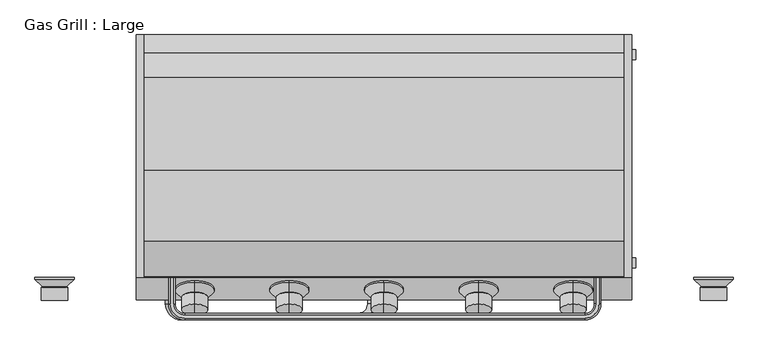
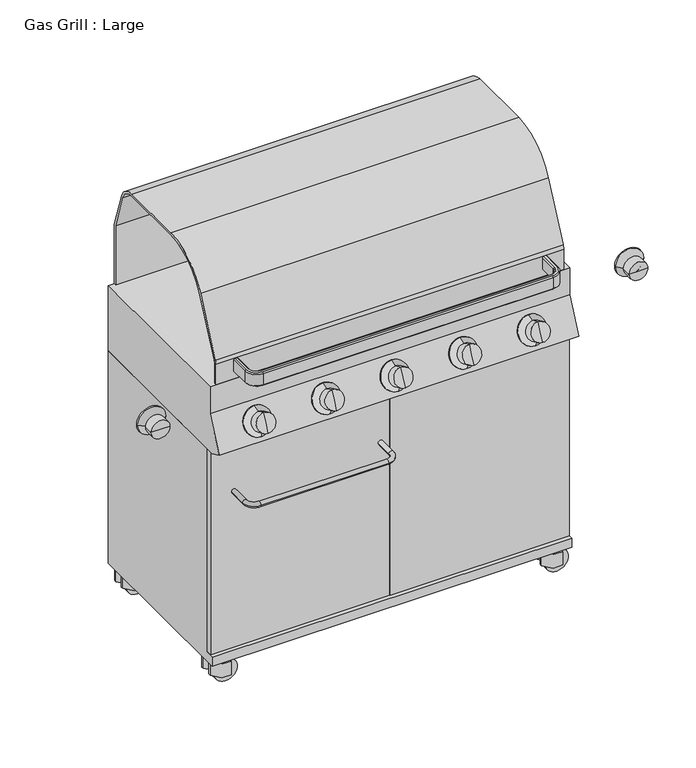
"""IFC4 building model written with IfcOpenShell, lengths in millimetres: proxy geometry, Gas Grill : Large."""

from ifc_helpers import new_model, si_unit, point, frame, frame_2d, origin, place, context, project, spatial, polyline, circle_curve, ellipse_curve, trimmed, segment, composite_curve, outline, extrude, source, transform, mapped, element, save
from ifc_brep_helpers import plane_surface, cylinder_surface, revolved_surface, advanced_brep


def gas_grill_large_af3ab6b7(model_context):
    return source(origin(), model_context, "Body", "SolidModel", [
        advanced_brep(
        [(-184.15, -237.6710003, 774.7559865), (-184.15, -269.8745119, 705.6953331), (-184.15, -253.7727561, 740.2256598), (-184.15, -240.5485275, 776.0977995), (-184.15, -272.7520391, 707.0371461), (-184.15, -259.5355585, 769.1870854), (-184.15, -279.6627532, 726.024177), (-184.15, -260.3034156, 771.2967555), (-184.15, -281.7724233, 725.2563199), (-184.15, -283.3236334, 782.0312593), (-184.15, -304.7926411, 735.9908238), (-184.15, -294.0581372, 759.0110415)],
        [
            (0, 1, circle_curve(frame((-184.15, -253.7727561, 740.2256598), z_axis=(0.0, 0.9063077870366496, -0.42261826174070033), x_axis=(0.0, -0.42261826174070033, -0.9063077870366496)), 38.1)),
            (1, 2),
            (2, 0),
            (1, 0, circle_curve(frame((-184.15, -253.7727561, 740.2256598), z_axis=(0.0, 0.9063077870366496, -0.42261826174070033), x_axis=(0.0, -0.42261826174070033, -0.9063077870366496)), 38.1)),
            (3, 4, circle_curve(frame((-184.15, -256.6502833, 741.5674728), z_axis=(0.0, 0.9063077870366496, -0.42261826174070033), x_axis=(0.0, -0.42261826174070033, -0.9063077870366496)), 38.1)),
            (4, 1),
            (0, 3),
            (4, 3, circle_curve(frame((-184.15, -256.6502833, 741.5674728), z_axis=(0.0, 0.9063077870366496, -0.42261826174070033), x_axis=(0.0, -0.42261826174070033, -0.9063077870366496)), 38.1)),
            (5, 6, circle_curve(frame((-184.15, -269.5991558, 747.6056312), z_axis=(0.0, 0.9063077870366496, -0.42261826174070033), x_axis=(0.0, -0.42261826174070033, -0.9063077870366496)), 23.8125)),
            (6, 4),
            (3, 5),
            (6, 5, circle_curve(frame((-184.15, -269.5991558, 747.6056312), z_axis=(0.0, 0.9063077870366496, -0.42261826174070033), x_axis=(0.0, -0.42261826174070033, -0.9063077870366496)), 23.8125)),
            (7, 8, circle_curve(frame((-184.15, -271.0379194, 748.2765377), z_axis=(0.0, 0.9063077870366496, -0.42261826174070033), x_axis=(0.0, -0.42261826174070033, -0.9063077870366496)), 25.4)),
            (8, 6),
            (5, 7),
            (8, 7, circle_curve(frame((-184.15, -271.0379194, 748.2765377), z_axis=(0.0, 0.9063077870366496, -0.42261826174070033), x_axis=(0.0, -0.42261826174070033, -0.9063077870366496)), 25.4)),
            (9, 10, circle_curve(frame((-184.15, -294.0581372, 759.0110415), z_axis=(0.0, 0.9063077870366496, -0.42261826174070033), x_axis=(0.0, -0.42261826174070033, -0.9063077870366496)), 25.4)),
            (10, 8),
            (7, 9),
            (10, 9, circle_curve(frame((-184.15, -294.0581372, 759.0110415), z_axis=(0.0, 0.9063077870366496, -0.42261826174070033), x_axis=(0.0, -0.42261826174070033, -0.9063077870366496)), 25.4)),
            (11, 10),
            (9, 11),
        ],
        [
            plane_surface(frame((-184.15, -253.7727561, 740.2256598), z_axis=(0.0, 0.9063077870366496, -0.42261826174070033), x_axis=(0.0, -0.42261826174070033, -0.9063077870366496))),
            cylinder_surface(frame((-184.15, -294.0581372, 759.0110415), z_axis=(0.0, -0.9063077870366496, 0.42261826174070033), x_axis=(0.0, -0.42261826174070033, -0.9063077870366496)), 38.1),
            revolved_surface(polyline([(-184.15, -272.7520391, 707.0371461), (-184.15, -279.6627532, 726.024177)]), (-184.15, -294.0581372, 759.0110415), (0.0, -0.9063077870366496, 0.42261826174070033)),
            revolved_surface(polyline([(-184.15, -279.6627532, 726.024177), (-184.15, -281.7724233, 725.2563199)]), (-184.15, -294.0581372, 759.0110415), (0.0, -0.9063077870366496, 0.42261826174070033)),
            cylinder_surface(frame((-184.15, -294.0581372, 759.0110415), z_axis=(0.0, -0.9063077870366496, 0.42261826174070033), x_axis=(0.0, -0.42261826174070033, -0.9063077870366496)), 25.4),
            plane_surface(frame((-184.15, -294.0581372, 759.0110415), z_axis=(0.0, -0.9063077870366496, 0.42261826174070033), x_axis=(0.0, -0.42261826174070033, -0.9063077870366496))),
        ],
        [
            (0, [[1, 2, 3]]),
            (0, [[4, -3, -2]]),
            (1, [[5, 6, -1, 7]]),
            (1, [[8, -7, -4, -6]]),
            (2, [[9, 10, -5, 11]]),
            (2, [[12, -11, -8, -10]]),
            (3, [[13, 14, -9, 15]]),
            (3, [[16, -15, -12, -14]]),
            (4, [[17, 18, -13, 19]]),
            (4, [[20, -19, -16, -18]]),
            (5, [[21, -17, 22]]),
            (5, [[-22, -20, -21]]),
        ],
    ),
        advanced_brep(
        [(0.0, -237.6710003, 774.7559865), (0.0, -269.8745119, 705.6953331), (0.0, -253.7727561, 740.2256598), (0.0, -240.5485275, 776.0977995), (0.0, -272.7520391, 707.0371461), (0.0, -259.5355585, 769.1870854), (0.0, -279.6627532, 726.024177), (0.0, -260.3034156, 771.2967555), (0.0, -281.7724233, 725.2563199), (0.0, -283.3236334, 782.0312593), (0.0, -304.7926411, 735.9908238), (0.0, -294.0581372, 759.0110415)],
        [
            (0, 1, circle_curve(frame((0.0, -253.7727561, 740.2256598), z_axis=(0.0, 0.9063077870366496, -0.42261826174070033), x_axis=(0.0, -0.42261826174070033, -0.9063077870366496)), 38.1)),
            (1, 2),
            (2, 0),
            (1, 0, circle_curve(frame((0.0, -253.7727561, 740.2256598), z_axis=(0.0, 0.9063077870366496, -0.42261826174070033), x_axis=(0.0, -0.42261826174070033, -0.9063077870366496)), 38.1)),
            (3, 4, circle_curve(frame((0.0, -256.6502833, 741.5674728), z_axis=(0.0, 0.9063077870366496, -0.42261826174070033), x_axis=(0.0, -0.42261826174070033, -0.9063077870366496)), 38.1)),
            (4, 1),
            (0, 3),
            (4, 3, circle_curve(frame((0.0, -256.6502833, 741.5674728), z_axis=(0.0, 0.9063077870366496, -0.42261826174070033), x_axis=(0.0, -0.42261826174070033, -0.9063077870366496)), 38.1)),
            (5, 6, circle_curve(frame((0.0, -269.5991558, 747.6056312), z_axis=(0.0, 0.9063077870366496, -0.42261826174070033), x_axis=(0.0, -0.42261826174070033, -0.9063077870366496)), 23.8125)),
            (6, 4),
            (3, 5),
            (6, 5, circle_curve(frame((0.0, -269.5991558, 747.6056312), z_axis=(0.0, 0.9063077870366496, -0.42261826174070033), x_axis=(0.0, -0.42261826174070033, -0.9063077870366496)), 23.8125)),
            (7, 8, circle_curve(frame((0.0, -271.0379194, 748.2765377), z_axis=(0.0, 0.9063077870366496, -0.42261826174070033), x_axis=(0.0, -0.42261826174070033, -0.9063077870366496)), 25.4)),
            (8, 6),
            (5, 7),
            (8, 7, circle_curve(frame((0.0, -271.0379194, 748.2765377), z_axis=(0.0, 0.9063077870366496, -0.42261826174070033), x_axis=(0.0, -0.42261826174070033, -0.9063077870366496)), 25.4)),
            (9, 10, circle_curve(frame((0.0, -294.0581372, 759.0110415), z_axis=(0.0, 0.9063077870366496, -0.42261826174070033), x_axis=(0.0, -0.42261826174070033, -0.9063077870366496)), 25.4)),
            (10, 8),
            (7, 9),
            (10, 9, circle_curve(frame((0.0, -294.0581372, 759.0110415), z_axis=(0.0, 0.9063077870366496, -0.42261826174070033), x_axis=(0.0, -0.42261826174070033, -0.9063077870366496)), 25.4)),
            (11, 10),
            (9, 11),
        ],
        [
            plane_surface(frame((0.0, -253.7727561, 740.2256598), z_axis=(0.0, 0.9063077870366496, -0.42261826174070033), x_axis=(0.0, -0.42261826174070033, -0.9063077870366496))),
            cylinder_surface(frame((0.0, -294.0581372, 759.0110415), z_axis=(0.0, -0.9063077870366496, 0.42261826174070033), x_axis=(0.0, -0.42261826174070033, -0.9063077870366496)), 38.1),
            revolved_surface(polyline([(0.0, -272.7520391, 707.0371461), (0.0, -279.6627532, 726.024177)]), (0.0, -294.0581372, 759.0110415), (0.0, -0.9063077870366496, 0.42261826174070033)),
            revolved_surface(polyline([(0.0, -279.6627532, 726.024177), (0.0, -281.7724233, 725.2563199)]), (0.0, -294.0581372, 759.0110415), (0.0, -0.9063077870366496, 0.42261826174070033)),
            cylinder_surface(frame((0.0, -294.0581372, 759.0110415), z_axis=(0.0, -0.9063077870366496, 0.42261826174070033), x_axis=(0.0, -0.42261826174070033, -0.9063077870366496)), 25.4),
            plane_surface(frame((0.0, -294.0581372, 759.0110415), z_axis=(0.0, -0.9063077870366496, 0.42261826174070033), x_axis=(0.0, -0.42261826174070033, -0.9063077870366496))),
        ],
        [
            (0, [[1, 2, 3]]),
            (0, [[4, -3, -2]]),
            (1, [[5, 6, -1, 7]]),
            (1, [[8, -7, -4, -6]]),
            (2, [[9, 10, -5, 11]]),
            (2, [[12, -11, -8, -10]]),
            (3, [[13, 14, -9, 15]]),
            (3, [[16, -15, -12, -14]]),
            (4, [[17, 18, -13, 19]]),
            (4, [[20, -19, -16, -18]]),
            (5, [[21, -17, 22]]),
            (5, [[-22, -20, -21]]),
        ],
    ),
        advanced_brep(
        [(184.15, -237.6710003, 774.7559865), (184.15, -269.8745119, 705.6953331), (184.15, -253.7727561, 740.2256598), (184.15, -240.5485275, 776.0977995), (184.15, -272.7520391, 707.0371461), (184.15, -259.5355585, 769.1870854), (184.15, -279.6627532, 726.024177), (184.15, -260.3034156, 771.2967555), (184.15, -281.7724233, 725.2563199), (184.15, -283.3236334, 782.0312593), (184.15, -304.7926411, 735.9908238), (184.15, -294.0581372, 759.0110415)],
        [
            (0, 1, circle_curve(frame((184.15, -253.7727561, 740.2256598), z_axis=(0.0, 0.9063077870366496, -0.42261826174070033), x_axis=(0.0, -0.42261826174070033, -0.9063077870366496)), 38.1)),
            (1, 2),
            (2, 0),
            (1, 0, circle_curve(frame((184.15, -253.7727561, 740.2256598), z_axis=(0.0, 0.9063077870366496, -0.42261826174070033), x_axis=(0.0, -0.42261826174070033, -0.9063077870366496)), 38.1)),
            (3, 4, circle_curve(frame((184.15, -256.6502833, 741.5674728), z_axis=(0.0, 0.9063077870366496, -0.42261826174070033), x_axis=(0.0, -0.42261826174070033, -0.9063077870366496)), 38.1)),
            (4, 1),
            (0, 3),
            (4, 3, circle_curve(frame((184.15, -256.6502833, 741.5674728), z_axis=(0.0, 0.9063077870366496, -0.42261826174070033), x_axis=(0.0, -0.42261826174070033, -0.9063077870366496)), 38.1)),
            (5, 6, circle_curve(frame((184.15, -269.5991558, 747.6056312), z_axis=(0.0, 0.9063077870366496, -0.42261826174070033), x_axis=(0.0, -0.42261826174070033, -0.9063077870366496)), 23.8125)),
            (6, 4),
            (3, 5),
            (6, 5, circle_curve(frame((184.15, -269.5991558, 747.6056312), z_axis=(0.0, 0.9063077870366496, -0.42261826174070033), x_axis=(0.0, -0.42261826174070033, -0.9063077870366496)), 23.8125)),
            (7, 8, circle_curve(frame((184.15, -271.0379194, 748.2765377), z_axis=(0.0, 0.9063077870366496, -0.42261826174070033), x_axis=(0.0, -0.42261826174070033, -0.9063077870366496)), 25.4)),
            (8, 6),
            (5, 7),
            (8, 7, circle_curve(frame((184.15, -271.0379194, 748.2765377), z_axis=(0.0, 0.9063077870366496, -0.42261826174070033), x_axis=(0.0, -0.42261826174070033, -0.9063077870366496)), 25.4)),
            (9, 10, circle_curve(frame((184.15, -294.0581372, 759.0110415), z_axis=(0.0, 0.9063077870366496, -0.42261826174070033), x_axis=(0.0, -0.42261826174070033, -0.9063077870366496)), 25.4)),
            (10, 8),
            (7, 9),
            (10, 9, circle_curve(frame((184.15, -294.0581372, 759.0110415), z_axis=(0.0, 0.9063077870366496, -0.42261826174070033), x_axis=(0.0, -0.42261826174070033, -0.9063077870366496)), 25.4)),
            (11, 10),
            (9, 11),
        ],
        [
            plane_surface(frame((184.15, -253.7727561, 740.2256598), z_axis=(0.0, 0.9063077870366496, -0.42261826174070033), x_axis=(0.0, -0.42261826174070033, -0.9063077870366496))),
            cylinder_surface(frame((184.15, -294.0581372, 759.0110415), z_axis=(0.0, -0.9063077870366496, 0.42261826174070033), x_axis=(0.0, -0.42261826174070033, -0.9063077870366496)), 38.1),
            revolved_surface(polyline([(184.15, -272.7520391, 707.0371461), (184.15, -279.6627532, 726.024177)]), (184.15, -294.0581372, 759.0110415), (0.0, -0.9063077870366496, 0.42261826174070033)),
            revolved_surface(polyline([(184.15, -279.6627532, 726.024177), (184.15, -281.7724233, 725.2563199)]), (184.15, -294.0581372, 759.0110415), (0.0, -0.9063077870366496, 0.42261826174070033)),
            cylinder_surface(frame((184.15, -294.0581372, 759.0110415), z_axis=(0.0, -0.9063077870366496, 0.42261826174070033), x_axis=(0.0, -0.42261826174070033, -0.9063077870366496)), 25.4),
            plane_surface(frame((184.15, -294.0581372, 759.0110415), z_axis=(0.0, -0.9063077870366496, 0.42261826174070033), x_axis=(0.0, -0.42261826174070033, -0.9063077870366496))),
        ],
        [
            (0, [[1, 2, 3]]),
            (0, [[4, -3, -2]]),
            (1, [[5, 6, -1, 7]]),
            (1, [[8, -7, -4, -6]]),
            (2, [[9, 10, -5, 11]]),
            (2, [[12, -11, -8, -10]]),
            (3, [[13, 14, -9, 15]]),
            (3, [[16, -15, -12, -14]]),
            (4, [[17, 18, -13, 19]]),
            (4, [[20, -19, -16, -18]]),
            (5, [[21, -17, 22]]),
            (5, [[-22, -20, -21]]),
        ],
    ),
        advanced_brep(
        [(-603.25, -231.775, 825.5), (-641.35, -231.775, 825.5), (-679.45, -231.775, 825.5), (-603.25, -234.95, 825.5), (-679.45, -234.95, 825.5), (-617.5375, -249.2375, 825.5), (-665.1625, -249.2375, 825.5), (-615.95, -250.825, 825.5), (-666.75, -250.825, 825.5), (-615.95, -276.225, 825.5), (-666.75, -276.225, 825.5), (-641.35, -276.225, 825.5)],
        [
            (0, 1),
            (1, 2),
            (2, 0, circle_curve(frame((-641.35, -231.775, 825.5), z_axis=(0.0, 1.0, 0.0), x_axis=(-1.0, 0.0, 0.0)), 38.1)),
            (0, 2, circle_curve(frame((-641.35, -231.775, 825.5), z_axis=(0.0, 1.0, 0.0), x_axis=(-1.0, 0.0, 0.0)), 38.1)),
            (3, 0),
            (2, 4),
            (4, 3, circle_curve(frame((-641.35, -234.95, 825.5), z_axis=(0.0, 1.0, 0.0), x_axis=(-1.0, 0.0, 0.0)), 38.1)),
            (3, 4, circle_curve(frame((-641.35, -234.95, 825.5), z_axis=(0.0, 1.0, 0.0), x_axis=(-1.0, 0.0, 0.0)), 38.1)),
            (5, 3),
            (4, 6),
            (6, 5, circle_curve(frame((-641.35, -249.2375, 825.5), z_axis=(0.0, 1.0, 0.0), x_axis=(-1.0, 0.0, 0.0)), 23.8125)),
            (5, 6, circle_curve(frame((-641.35, -249.2375, 825.5), z_axis=(0.0, 1.0, 0.0), x_axis=(-1.0, 0.0, 0.0)), 23.8125)),
            (7, 5),
            (6, 8),
            (8, 7, circle_curve(frame((-641.35, -250.825, 825.5), z_axis=(0.0, 1.0, 0.0), x_axis=(-1.0, 0.0, 0.0)), 25.4)),
            (7, 8, circle_curve(frame((-641.35, -250.825, 825.5), z_axis=(0.0, 1.0, 0.0), x_axis=(-1.0, 0.0, 0.0)), 25.4)),
            (9, 7),
            (8, 10),
            (10, 9, circle_curve(frame((-641.35, -276.225, 825.5), z_axis=(0.0, 1.0, 0.0), x_axis=(-1.0, 0.0, 0.0)), 25.4)),
            (9, 10, circle_curve(frame((-641.35, -276.225, 825.5), z_axis=(0.0, 1.0, 0.0), x_axis=(-1.0, 0.0, 0.0)), 25.4)),
            (11, 9),
            (10, 11),
        ],
        [
            plane_surface(frame((-641.35, -231.775, 825.5), z_axis=(0.0, 1.0, 0.0), x_axis=(-1.0, 0.0, 0.0))),
            cylinder_surface(frame((-641.35, -276.225, 825.5), z_axis=(0.0, -1.0, 0.0), x_axis=(-1.0, 0.0, 0.0)), 38.1),
            revolved_surface(polyline([(-679.45, -234.95, 825.5), (-665.1625, -249.2375, 825.5)]), (-641.35, -276.225, 825.5), (0.0, -1.0, 0.0)),
            revolved_surface(polyline([(-665.1625, -249.2375, 825.5), (-666.75, -250.825, 825.5)]), (-641.35, -276.225, 825.5), (0.0, -1.0, 0.0)),
            cylinder_surface(frame((-641.35, -276.225, 825.5), z_axis=(0.0, -1.0, 0.0), x_axis=(-1.0, 0.0, 0.0)), 25.4),
            plane_surface(frame((-641.35, -276.225, 825.5), z_axis=(0.0, -1.0, 0.0), x_axis=(-1.0, 0.0, 0.0))),
        ],
        [
            (0, [[1, 2, 3]]),
            (0, [[-2, -1, 4]]),
            (1, [[5, -3, 6, 7]]),
            (1, [[-6, -4, -5, 8]]),
            (2, [[9, -7, 10, 11]]),
            (2, [[-10, -8, -9, 12]]),
            (3, [[13, -11, 14, 15]]),
            (3, [[-14, -12, -13, 16]]),
            (4, [[17, -15, 18, 19]]),
            (4, [[-18, -16, -17, 20]]),
            (5, [[21, -19, 22]]),
            (5, [[-22, -20, -21]]),
        ],
    ),
        advanced_brep(
        [(-368.3, -237.6710003, 774.7559865), (-368.3, -269.8745119, 705.6953331), (-368.3, -253.7727561, 740.2256598), (-368.3, -240.5485275, 776.0977995), (-368.3, -272.7520391, 707.0371461), (-368.3, -259.5355585, 769.1870854), (-368.3, -279.6627532, 726.024177), (-368.3, -260.3034156, 771.2967555), (-368.3, -281.7724233, 725.2563199), (-368.3, -283.3236334, 782.0312593), (-368.3, -304.7926411, 735.9908238), (-368.3, -294.0581372, 759.0110415)],
        [
            (0, 1, circle_curve(frame((-368.3, -253.7727561, 740.2256598), z_axis=(0.0, 0.9063077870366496, -0.42261826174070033), x_axis=(0.0, -0.42261826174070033, -0.9063077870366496)), 38.1)),
            (1, 2),
            (2, 0),
            (1, 0, circle_curve(frame((-368.3, -253.7727561, 740.2256598), z_axis=(0.0, 0.9063077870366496, -0.42261826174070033), x_axis=(0.0, -0.42261826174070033, -0.9063077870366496)), 38.1)),
            (3, 4, circle_curve(frame((-368.3, -256.6502833, 741.5674728), z_axis=(0.0, 0.9063077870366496, -0.42261826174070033), x_axis=(0.0, -0.42261826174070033, -0.9063077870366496)), 38.1)),
            (4, 1),
            (0, 3),
            (4, 3, circle_curve(frame((-368.3, -256.6502833, 741.5674728), z_axis=(0.0, 0.9063077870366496, -0.42261826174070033), x_axis=(0.0, -0.42261826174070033, -0.9063077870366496)), 38.1)),
            (5, 6, circle_curve(frame((-368.3, -269.5991558, 747.6056312), z_axis=(0.0, 0.9063077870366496, -0.42261826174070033), x_axis=(0.0, -0.42261826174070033, -0.9063077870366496)), 23.8125)),
            (6, 4),
            (3, 5),
            (6, 5, circle_curve(frame((-368.3, -269.5991558, 747.6056312), z_axis=(0.0, 0.9063077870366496, -0.42261826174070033), x_axis=(0.0, -0.42261826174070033, -0.9063077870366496)), 23.8125)),
            (7, 8, circle_curve(frame((-368.3, -271.0379194, 748.2765377), z_axis=(0.0, 0.9063077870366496, -0.42261826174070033), x_axis=(0.0, -0.42261826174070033, -0.9063077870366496)), 25.4)),
            (8, 6),
            (5, 7),
            (8, 7, circle_curve(frame((-368.3, -271.0379194, 748.2765377), z_axis=(0.0, 0.9063077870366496, -0.42261826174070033), x_axis=(0.0, -0.42261826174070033, -0.9063077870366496)), 25.4)),
            (9, 10, circle_curve(frame((-368.3, -294.0581372, 759.0110415), z_axis=(0.0, 0.9063077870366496, -0.42261826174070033), x_axis=(0.0, -0.42261826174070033, -0.9063077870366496)), 25.4)),
            (10, 8),
            (7, 9),
            (10, 9, circle_curve(frame((-368.3, -294.0581372, 759.0110415), z_axis=(0.0, 0.9063077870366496, -0.42261826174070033), x_axis=(0.0, -0.42261826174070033, -0.9063077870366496)), 25.4)),
            (11, 10),
            (9, 11),
        ],
        [
            plane_surface(frame((-368.3, -253.7727561, 740.2256598), z_axis=(0.0, 0.9063077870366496, -0.42261826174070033), x_axis=(0.0, -0.42261826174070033, -0.9063077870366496))),
            cylinder_surface(frame((-368.3, -294.0581372, 759.0110415), z_axis=(0.0, -0.9063077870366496, 0.42261826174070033), x_axis=(0.0, -0.42261826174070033, -0.9063077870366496)), 38.1),
            revolved_surface(polyline([(-368.3, -272.7520391, 707.0371461), (-368.3, -279.6627532, 726.024177)]), (-368.3, -294.0581372, 759.0110415), (0.0, -0.9063077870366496, 0.42261826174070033)),
            revolved_surface(polyline([(-368.3, -279.6627532, 726.024177), (-368.3, -281.7724233, 725.2563199)]), (-368.3, -294.0581372, 759.0110415), (0.0, -0.9063077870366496, 0.42261826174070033)),
            cylinder_surface(frame((-368.3, -294.0581372, 759.0110415), z_axis=(0.0, -0.9063077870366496, 0.42261826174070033), x_axis=(0.0, -0.42261826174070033, -0.9063077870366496)), 25.4),
            plane_surface(frame((-368.3, -294.0581372, 759.0110415), z_axis=(0.0, -0.9063077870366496, 0.42261826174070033), x_axis=(0.0, -0.42261826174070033, -0.9063077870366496))),
        ],
        [
            (0, [[1, 2, 3]]),
            (0, [[4, -3, -2]]),
            (1, [[5, 6, -1, 7]]),
            (1, [[8, -7, -4, -6]]),
            (2, [[9, 10, -5, 11]]),
            (2, [[12, -11, -8, -10]]),
            (3, [[13, 14, -9, 15]]),
            (3, [[16, -15, -12, -14]]),
            (4, [[17, 18, -13, 19]]),
            (4, [[20, -19, -16, -18]]),
            (5, [[21, -17, 22]]),
            (5, [[-22, -20, -21]]),
        ],
    ),
        advanced_brep(
        [(603.25, -231.775, 825.5), (679.45, -231.775, 825.5), (641.35, -231.775, 825.5), (603.25, -234.95, 825.5), (679.45, -234.95, 825.5), (617.5375, -249.2375, 825.5), (665.1625, -249.2375, 825.5), (615.95, -250.825, 825.5), (666.75, -250.825, 825.5), (615.95, -276.225, 825.5), (666.75, -276.225, 825.5), (641.35, -276.225, 825.5)],
        [
            (0, 1, circle_curve(frame((641.35, -231.775, 825.5), z_axis=(0.0, 1.0, 0.0), x_axis=(1.0, 0.0, 0.0)), 38.1)),
            (1, 2),
            (2, 0),
            (1, 0, circle_curve(frame((641.35, -231.775, 825.5), z_axis=(0.0, 1.0, 0.0), x_axis=(1.0, 0.0, 0.0)), 38.1)),
            (3, 4, circle_curve(frame((641.35, -234.95, 825.5), z_axis=(0.0, 1.0, 0.0), x_axis=(1.0, 0.0, 0.0)), 38.1)),
            (4, 1),
            (0, 3),
            (4, 3, circle_curve(frame((641.35, -234.95, 825.5), z_axis=(0.0, 1.0, 0.0), x_axis=(1.0, 0.0, 0.0)), 38.1)),
            (5, 6, circle_curve(frame((641.35, -249.2375, 825.5), z_axis=(0.0, 1.0, 0.0), x_axis=(1.0, 0.0, 0.0)), 23.8125)),
            (6, 4),
            (3, 5),
            (6, 5, circle_curve(frame((641.35, -249.2375, 825.5), z_axis=(0.0, 1.0, 0.0), x_axis=(1.0, 0.0, 0.0)), 23.8125)),
            (7, 8, circle_curve(frame((641.35, -250.825, 825.5), z_axis=(0.0, 1.0, 0.0), x_axis=(1.0, 0.0, 0.0)), 25.4)),
            (8, 6),
            (5, 7),
            (8, 7, circle_curve(frame((641.35, -250.825, 825.5), z_axis=(0.0, 1.0, 0.0), x_axis=(1.0, 0.0, 0.0)), 25.4)),
            (9, 10, circle_curve(frame((641.35, -276.225, 825.5), z_axis=(0.0, 1.0, 0.0), x_axis=(1.0, 0.0, 0.0)), 25.4)),
            (10, 8),
            (7, 9),
            (10, 9, circle_curve(frame((641.35, -276.225, 825.5), z_axis=(0.0, 1.0, 0.0), x_axis=(1.0, 0.0, 0.0)), 25.4)),
            (11, 10),
            (9, 11),
        ],
        [
            plane_surface(frame((641.35, -231.775, 825.5), z_axis=(0.0, 1.0, 0.0), x_axis=(1.0, 0.0, 0.0))),
            cylinder_surface(frame((641.35, -276.225, 825.5), z_axis=(0.0, -1.0, 0.0), x_axis=(1.0, 0.0, 0.0)), 38.1),
            revolved_surface(polyline([(679.45, -234.95, 825.5), (665.1625, -249.2375, 825.5)]), (641.35, -276.225, 825.5), (0.0, -1.0, 0.0)),
            revolved_surface(polyline([(665.1625, -249.2375, 825.5), (666.75, -250.825, 825.5)]), (641.35, -276.225, 825.5), (0.0, -1.0, 0.0)),
            cylinder_surface(frame((641.35, -276.225, 825.5), z_axis=(0.0, -1.0, 0.0), x_axis=(1.0, 0.0, 0.0)), 25.4),
            plane_surface(frame((641.35, -276.225, 825.5), z_axis=(0.0, -1.0, 0.0), x_axis=(1.0, 0.0, 0.0))),
        ],
        [
            (0, [[1, 2, 3]]),
            (0, [[4, -3, -2]]),
            (1, [[5, 6, -1, 7]]),
            (1, [[8, -7, -4, -6]]),
            (2, [[9, 10, -5, 11]]),
            (2, [[12, -11, -8, -10]]),
            (3, [[13, 14, -9, 15]]),
            (3, [[16, -15, -12, -14]]),
            (4, [[17, 18, -13, 19]]),
            (4, [[20, -19, -16, -18]]),
            (5, [[21, -17, 22]]),
            (5, [[-22, -20, -21]]),
        ],
    ),
        advanced_brep(
        [(368.3, -237.6710003, 774.7559865), (368.3, -269.8745119, 705.6953331), (368.3, -253.7727561, 740.2256598), (368.3, -240.5485275, 776.0977995), (368.3, -272.7520391, 707.0371461), (368.3, -259.5355585, 769.1870854), (368.3, -279.6627532, 726.024177), (368.3, -260.3034156, 771.2967555), (368.3, -281.7724233, 725.2563199), (368.3, -283.3236334, 782.0312593), (368.3, -304.7926411, 735.9908238), (368.3, -294.0581372, 759.0110415)],
        [
            (0, 1, circle_curve(frame((368.3, -253.7727561, 740.2256598), z_axis=(0.0, 0.9063077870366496, -0.42261826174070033), x_axis=(0.0, -0.42261826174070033, -0.9063077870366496)), 38.1)),
            (1, 2),
            (2, 0),
            (1, 0, circle_curve(frame((368.3, -253.7727561, 740.2256598), z_axis=(0.0, 0.9063077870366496, -0.42261826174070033), x_axis=(0.0, -0.42261826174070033, -0.9063077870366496)), 38.1)),
            (3, 4, circle_curve(frame((368.3, -256.6502833, 741.5674728), z_axis=(0.0, 0.9063077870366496, -0.42261826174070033), x_axis=(0.0, -0.42261826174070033, -0.9063077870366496)), 38.1)),
            (4, 1),
            (0, 3),
            (4, 3, circle_curve(frame((368.3, -256.6502833, 741.5674728), z_axis=(0.0, 0.9063077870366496, -0.42261826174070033), x_axis=(0.0, -0.42261826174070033, -0.9063077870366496)), 38.1)),
            (5, 6, circle_curve(frame((368.3, -269.5991558, 747.6056312), z_axis=(0.0, 0.9063077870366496, -0.42261826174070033), x_axis=(0.0, -0.42261826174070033, -0.9063077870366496)), 23.8125)),
            (6, 4),
            (3, 5),
            (6, 5, circle_curve(frame((368.3, -269.5991558, 747.6056312), z_axis=(0.0, 0.9063077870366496, -0.42261826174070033), x_axis=(0.0, -0.42261826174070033, -0.9063077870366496)), 23.8125)),
            (7, 8, circle_curve(frame((368.3, -271.0379194, 748.2765377), z_axis=(0.0, 0.9063077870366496, -0.42261826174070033), x_axis=(0.0, -0.42261826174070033, -0.9063077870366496)), 25.4)),
            (8, 6),
            (5, 7),
            (8, 7, circle_curve(frame((368.3, -271.0379194, 748.2765377), z_axis=(0.0, 0.9063077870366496, -0.42261826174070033), x_axis=(0.0, -0.42261826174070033, -0.9063077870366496)), 25.4)),
            (9, 10, circle_curve(frame((368.3, -294.0581372, 759.0110415), z_axis=(0.0, 0.9063077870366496, -0.42261826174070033), x_axis=(0.0, -0.42261826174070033, -0.9063077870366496)), 25.4)),
            (10, 8),
            (7, 9),
            (10, 9, circle_curve(frame((368.3, -294.0581372, 759.0110415), z_axis=(0.0, 0.9063077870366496, -0.42261826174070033), x_axis=(0.0, -0.42261826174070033, -0.9063077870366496)), 25.4)),
            (11, 10),
            (9, 11),
        ],
        [
            plane_surface(frame((368.3, -253.7727561, 740.2256598), z_axis=(0.0, 0.9063077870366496, -0.42261826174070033), x_axis=(0.0, -0.42261826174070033, -0.9063077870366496))),
            cylinder_surface(frame((368.3, -294.0581372, 759.0110415), z_axis=(0.0, -0.9063077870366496, 0.42261826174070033), x_axis=(0.0, -0.42261826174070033, -0.9063077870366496)), 38.1),
            revolved_surface(polyline([(368.3, -272.7520391, 707.0371461), (368.3, -279.6627532, 726.024177)]), (368.3, -294.0581372, 759.0110415), (0.0, -0.9063077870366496, 0.42261826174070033)),
            revolved_surface(polyline([(368.3, -279.6627532, 726.024177), (368.3, -281.7724233, 725.2563199)]), (368.3, -294.0581372, 759.0110415), (0.0, -0.9063077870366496, 0.42261826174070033)),
            cylinder_surface(frame((368.3, -294.0581372, 759.0110415), z_axis=(0.0, -0.9063077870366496, 0.42261826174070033), x_axis=(0.0, -0.42261826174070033, -0.9063077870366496)), 25.4),
            plane_surface(frame((368.3, -294.0581372, 759.0110415), z_axis=(0.0, -0.9063077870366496, 0.42261826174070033), x_axis=(0.0, -0.42261826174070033, -0.9063077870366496))),
        ],
        [
            (0, [[1, 2, 3]]),
            (0, [[4, -3, -2]]),
            (1, [[5, 6, -1, 7]]),
            (1, [[8, -7, -4, -6]]),
            (2, [[9, 10, -5, 11]]),
            (2, [[12, -11, -8, -10]]),
            (3, [[13, 14, -9, 15]]),
            (3, [[16, -15, -12, -14]]),
            (4, [[17, 18, -13, 19]]),
            (4, [[20, -19, -16, -18]]),
            (5, [[21, -17, 22]]),
            (5, [[-22, -20, -21]]),
        ],
    ),
        extrude(outline(polyline([(37.380871, 412.2704136), (19.05, 444.0204136), (19.05, 469.4204136), (57.15, 469.4204136), (57.15, 443.2781091), (76.2, 438.173677), (76.2, 412.2704136), (37.380871, 412.2704136)])), frame((0.0, -222.25, 0.0), z_axis=(0.0, 1.0, 0.0), x_axis=(0.0, 0.0, 1.0)), (0.0, 0.0, 1.0), 6.35),
        extrude(outline(composite_curve([segment(trimmed(circle_curve(frame_2d((31.75, 458.4717065)), 31.75), [point((0.0, 458.4717065))], [point((63.5, 458.4717065))], False, "CARTESIAN"), True, "CONTINUOUS"), segment(trimmed(circle_curve(frame_2d((31.75, 458.4717065)), 31.75), [point((63.5, 458.4717065))], [point((0.0, 458.4717065))], False, "CARTESIAN"), True, "CONTINUOUS")], self_intersect=False)), frame((0.0, -212.852, 0.0), z_axis=(0.0, 1.0, 0.0), x_axis=(0.0, 0.0, 1.0)), (0.0, 0.0, 1.0), 19.304),
        extrude(outline(polyline([(37.380871, 412.2704136), (19.05, 444.0204136), (19.05, 469.4204136), (57.15, 469.4204136), (57.15, 443.2781091), (76.2, 438.173677), (76.2, 412.2704136), (37.380871, 412.2704136)])), frame((0.0, -190.5, 0.0), z_axis=(0.0, 1.0, 0.0), x_axis=(0.0, 0.0, 1.0)), (0.0, 0.0, 1.0), 6.35),
        advanced_brep(
        [(-409.702, -231.775, 920.75), (-406.4, -231.775, 917.448), (-406.4, -231.775, 885.952), (-409.702, -231.775, 882.65), (-415.798, -231.775, 882.65), (-419.1, -231.775, 885.952), (-419.1, -231.775, 917.448), (-415.798, -231.775, 920.75), (412.877, -231.775, 920.75), (418.973, -231.775, 920.75), (422.275, -231.775, 917.448), (422.275, -231.775, 885.952), (418.973, -231.775, 882.65), (412.877, -231.775, 882.65), (409.575, -231.775, 885.952), (409.575, -231.775, 917.448), (-409.702, -282.575, 920.75), (-406.4, -282.575, 917.448), (-406.4, -282.575, 885.952), (-409.702, -282.575, 882.65), (-387.35, -304.927, 882.65), (390.525, -304.927, 882.65), (412.877, -282.575, 882.65), (418.973, -282.575, 882.65), (390.525, -311.023, 882.65), (-387.35, -311.023, 882.65), (-415.798, -282.575, 882.65), (-419.1, -282.575, 885.952), (-419.1, -282.575, 917.448), (-415.798, -282.575, 920.75), (-387.35, -311.023, 920.75), (390.525, -311.023, 920.75), (418.973, -282.575, 920.75), (412.877, -282.575, 920.75), (390.525, -304.927, 920.75), (-387.35, -304.927, 920.75), (-387.35, -301.625, 917.448), (-387.35, -301.625, 885.952), (-387.35, -314.325, 885.952), (-387.35, -314.325, 917.448), (390.525, -301.625, 917.448), (390.525, -301.625, 885.952), (390.525, -314.325, 885.952), (390.525, -314.325, 917.448), (409.575, -282.575, 917.448), (409.575, -282.575, 885.952), (422.275, -282.575, 885.952), (422.275, -282.575, 917.448)],
        [
            (0, 1),
            (1, 2),
            (2, 3),
            (3, 4),
            (4, 5),
            (5, 6),
            (6, 7),
            (7, 0),
            (8, 9),
            (9, 10),
            (10, 11),
            (11, 12),
            (12, 13),
            (13, 14),
            (14, 15),
            (15, 8),
            (0, 16),
            (16, 17),
            (17, 1),
            (17, 18),
            (18, 2),
            (18, 19),
            (19, 3),
            (19, 20, circle_curve(frame((-387.35, -282.575, 882.65), z_axis=(0.0, 0.0, 1.0), x_axis=(-1.0, 0.0, 0.0)), 22.352)),
            (20, 21),
            (21, 22, circle_curve(frame((390.525, -282.575, 882.65), z_axis=(0.0, 0.0, 1.0), x_axis=(0.0, -1.0, 0.0)), 22.352)),
            (22, 13),
            (12, 23),
            (23, 24, circle_curve(frame((390.525, -282.575, 882.65), z_axis=(0.0, 0.0, -1.0), x_axis=(0.0, -1.0, 0.0)), 28.448)),
            (24, 25),
            (25, 26, circle_curve(frame((-387.35, -282.575, 882.65), z_axis=(0.0, 0.0, -1.0), x_axis=(-1.0, 0.0, 0.0)), 28.448)),
            (26, 4),
            (26, 27),
            (27, 5),
            (27, 28),
            (28, 6),
            (28, 29),
            (29, 7),
            (29, 30, circle_curve(frame((-387.35, -282.575, 920.75), z_axis=(0.0, 0.0, 1.0), x_axis=(-1.0, 0.0, 0.0)), 28.448)),
            (30, 31),
            (31, 32, circle_curve(frame((390.525, -282.575, 920.75), z_axis=(0.0, 0.0, 1.0), x_axis=(0.0, -1.0, 0.0)), 28.448)),
            (32, 9),
            (8, 33),
            (33, 34, circle_curve(frame((390.525, -282.575, 920.75), z_axis=(0.0, 0.0, -1.0), x_axis=(0.0, -1.0, 0.0)), 22.352)),
            (34, 35),
            (35, 16, circle_curve(frame((-387.35, -282.575, 920.75), z_axis=(0.0, 0.0, -1.0), x_axis=(-1.0, 0.0, 0.0)), 22.352)),
            (36, 17, circle_curve(frame((-387.35, -282.575, 917.448), z_axis=(0.0, 0.0, -1.0), x_axis=(-1.0, 0.0, 0.0)), 19.05)),
            (35, 36),
            (37, 18, circle_curve(frame((-387.35, -282.575, 885.952), z_axis=(0.0, 0.0, -1.0), x_axis=(-1.0, 0.0, 0.0)), 19.05)),
            (36, 37),
            (37, 20),
            (38, 27, circle_curve(frame((-387.35, -282.575, 885.952), z_axis=(0.0, 0.0, -1.0), x_axis=(-1.0, 0.0, 0.0)), 31.75)),
            (25, 38),
            (39, 28, circle_curve(frame((-387.35, -282.575, 917.448), z_axis=(0.0, 0.0, -1.0), x_axis=(-1.0, 0.0, 0.0)), 31.75)),
            (38, 39),
            (39, 30),
            (34, 40),
            (40, 36),
            (40, 41),
            (41, 37),
            (41, 21),
            (24, 42),
            (42, 38),
            (42, 43),
            (43, 39),
            (43, 31),
            (44, 40, circle_curve(frame((390.525, -282.575, 917.448), z_axis=(0.0, 0.0, -1.0), x_axis=(0.0, -1.0, 0.0)), 19.05)),
            (33, 44),
            (45, 41, circle_curve(frame((390.525, -282.575, 885.952), z_axis=(0.0, 0.0, -1.0), x_axis=(0.0, -1.0, 0.0)), 19.05)),
            (44, 45),
            (45, 22),
            (46, 42, circle_curve(frame((390.525, -282.575, 885.952), z_axis=(0.0, 0.0, -1.0), x_axis=(0.0, -1.0, 0.0)), 31.75)),
            (23, 46),
            (47, 43, circle_curve(frame((390.525, -282.575, 917.448), z_axis=(0.0, 0.0, -1.0), x_axis=(0.0, -1.0, 0.0)), 31.75)),
            (46, 47),
            (47, 32),
            (15, 44),
            (14, 45),
            (11, 46),
            (10, 47),
        ],
        [
            plane_surface(frame((-412.75, -231.775, 901.7), z_axis=(0.0, 1.0, 0.0), x_axis=(0.0, 0.0, 1.0))),
            plane_surface(frame((415.925, -231.775, 901.7), z_axis=(0.0, 1.0, 0.0), x_axis=(0.0, 0.0, 1.0))),
            plane_surface(frame((-409.702, -231.775, 920.75), z_axis=(0.7071067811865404, 0.0, 0.7071067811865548), x_axis=(0.0, -1.0, 0.0))),
            plane_surface(frame((-406.4, -231.775, 917.448), z_axis=(1.0, 0.0, 0.0), x_axis=(0.0, -1.0, 0.0))),
            plane_surface(frame((-406.4, -231.775, 885.952), z_axis=(0.7071067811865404, 0.0, -0.7071067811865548), x_axis=(0.0, -1.0, 0.0))),
            plane_surface(frame((-409.702, -231.775, 882.65), z_axis=(0.0, 0.0, -1.0), x_axis=(0.0, -1.0, 0.0))),
            plane_surface(frame((-415.798, -231.775, 882.65), z_axis=(-0.7071067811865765, 0.0, -0.7071067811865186), x_axis=(0.0, -1.0, 0.0))),
            plane_surface(frame((-419.1, -231.775, 885.952), z_axis=(-1.0, 0.0, 0.0), x_axis=(0.0, -1.0, 0.0))),
            plane_surface(frame((-419.1, -231.775, 917.448), z_axis=(-0.7071067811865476, 0.0, 0.7071067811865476), x_axis=(0.0, -1.0, 0.0))),
            plane_surface(frame((-415.798, -231.775, 920.75), z_axis=(0.0, 0.0, 1.0), x_axis=(0.0, -1.0, 0.0))),
            revolved_surface(polyline([(-409.702, -282.575, 920.75), (-406.4, -282.575, 917.448)]), (-387.35, -282.575, 901.7), (0.0, 0.0, 1.0)),
            revolved_surface(polyline([(-406.40000000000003, -282.575, 917.448), (-406.40000000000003, -282.575, 885.952)]), (-387.35, -282.575, 901.7), (0.0, 0.0, 1.0)),
            revolved_surface(polyline([(-406.4, -282.575, 885.952), (-409.702, -282.575, 882.65)]), (-387.35, -282.575, 901.7), (0.0, 0.0, 1.0)),
            revolved_surface(polyline([(-415.798, -282.575, 882.65), (-419.1, -282.575, 885.952)]), (-387.35, -282.575, 901.7), (0.0, 0.0, 1.0)),
            cylinder_surface(frame((-387.35, -282.575, 901.7), z_axis=(0.0, 0.0, 1.0), x_axis=(-1.0, 0.0, 0.0)), 31.75),
            revolved_surface(polyline([(-419.1, -282.575, 917.448), (-415.798, -282.575, 920.75)]), (-387.35, -282.575, 901.7), (0.0, 0.0, 1.0)),
            plane_surface(frame((-387.35, -304.927, 920.75), z_axis=(0.0, 0.7071067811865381, 0.707106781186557), x_axis=(1.0, 0.0, 0.0))),
            plane_surface(frame((-387.35, -301.625, 917.448), z_axis=(0.0, 1.0, 0.0), x_axis=(1.0, 0.0, 0.0))),
            plane_surface(frame((-387.35, -301.625, 885.952), z_axis=(0.0, 0.7071067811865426, -0.7071067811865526), x_axis=(1.0, 0.0, 0.0))),
            plane_surface(frame((-387.35, -311.023, 882.65), z_axis=(0.0, -0.7071067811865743, -0.7071067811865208), x_axis=(1.0, 0.0, 0.0))),
            plane_surface(frame((-387.35, -314.325, 885.952), z_axis=(0.0, -1.0, 0.0), x_axis=(1.0, 0.0, 0.0))),
            plane_surface(frame((-387.35, -314.325, 917.448), z_axis=(0.0, -0.7071067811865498, 0.7071067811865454), x_axis=(1.0, 0.0, 0.0))),
            revolved_surface(polyline([(390.525, -304.927, 920.75), (390.525, -301.625, 917.448)]), (390.525, -282.575, 901.7), (0.0, 0.0, 1.0)),
            revolved_surface(polyline([(390.525, -301.625, 917.448), (390.525, -301.625, 885.952)]), (390.525, -282.575, 901.7), (0.0, 0.0, 1.0)),
            revolved_surface(polyline([(390.525, -301.625, 885.952), (390.525, -304.927, 882.65)]), (390.525, -282.575, 901.7), (0.0, 0.0, 1.0)),
            revolved_surface(polyline([(390.525, -311.023, 882.65), (390.525, -314.325, 885.952)]), (390.525, -282.575, 901.7), (0.0, 0.0, 1.0)),
            cylinder_surface(frame((390.525, -282.575, 901.7), z_axis=(0.0, 0.0, 1.0), x_axis=(0.0, -1.0, 0.0)), 31.75),
            revolved_surface(polyline([(390.525, -314.325, 917.448), (390.525, -311.023, 920.75)]), (390.525, -282.575, 901.7), (0.0, 0.0, 1.0)),
            plane_surface(frame((412.877, -282.575, 920.75), z_axis=(-0.7071067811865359, 0.0, 0.7071067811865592), x_axis=(0.0, 1.0, 0.0))),
            plane_surface(frame((409.575, -282.575, 917.448), z_axis=(-1.0, 0.0, 0.0), x_axis=(0.0, 1.0, 0.0))),
            plane_surface(frame((409.575, -282.575, 885.952), z_axis=(-0.7071067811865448, 0.0, -0.7071067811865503), x_axis=(0.0, 1.0, 0.0))),
            plane_surface(frame((418.973, -282.575, 882.65), z_axis=(0.7071067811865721, 0.0, -0.707106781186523), x_axis=(0.0, 1.0, 0.0))),
            plane_surface(frame((422.275, -282.575, 885.952), z_axis=(1.0, 0.0, 0.0), x_axis=(0.0, 1.0, 0.0))),
            plane_surface(frame((422.275, -282.575, 917.448), z_axis=(0.707106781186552, 0.0, 0.7071067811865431), x_axis=(0.0, 1.0, 0.0))),
        ],
        [
            (0, [[1, 2, 3, 4, 5, 6, 7, 8]]),
            (1, [[9, 10, 11, 12, 13, 14, 15, 16]]),
            (2, [[-1, 17, 18, 19]]),
            (3, [[-2, -19, 20, 21]]),
            (4, [[-3, -21, 22, 23]]),
            (5, [[-4, -23, 24, 25, 26, 27, -13, 28, 29, 30, 31, 32]]),
            (6, [[-5, -32, 33, 34]]),
            (7, [[-6, -34, 35, 36]]),
            (8, [[-7, -36, 37, 38]]),
            (9, [[-8, -38, 39, 40, 41, 42, -9, 43, 44, 45, 46, -17]]),
            (10, [[47, -18, -46, 48]]),
            (11, [[49, -20, -47, 50]]),
            (12, [[-24, -22, -49, 51]]),
            (13, [[52, -33, -31, 53]]),
            (14, [[54, -35, -52, 55]]),
            (15, [[-39, -37, -54, 56]]),
            (16, [[-48, -45, 57, 58]]),
            (17, [[-50, -58, 59, 60]]),
            (18, [[-51, -60, 61, -25]]),
            (19, [[-53, -30, 62, 63]]),
            (20, [[-55, -63, 64, 65]]),
            (21, [[-56, -65, 66, -40]]),
            (22, [[67, -57, -44, 68]]),
            (23, [[69, -59, -67, 70]]),
            (24, [[-26, -61, -69, 71]]),
            (25, [[72, -62, -29, 73]]),
            (26, [[74, -64, -72, 75]]),
            (27, [[-41, -66, -74, 76]]),
            (28, [[-68, -43, -16, 77]]),
            (29, [[-70, -77, -15, 78]]),
            (30, [[-71, -78, -14, -27]]),
            (31, [[-73, -28, -12, 79]]),
            (32, [[-75, -79, -11, 80]]),
            (33, [[-76, -80, -10, -42]]),
        ],
    ),
        extrude(outline(polyline([(37.380871, 412.2704136), (19.05, 444.0204136), (19.05, 469.4204136), (57.15, 469.4204136), (57.15, 443.2781091), (76.2, 438.173677), (76.2, 412.2704136), (37.380871, 412.2704136)])), frame((0.0, 215.9, 0.0), z_axis=(0.0, 1.0, 0.0), x_axis=(0.0, 0.0, 1.0)), (0.0, 0.0, 1.0), 6.35),
        extrude(outline(composite_curve([segment(trimmed(circle_curve(frame_2d((31.75, 458.4717065)), 31.75), [point((0.0, 458.4717065))], [point((63.5, 458.4717065))], False, "CARTESIAN"), True, "CONTINUOUS"), segment(trimmed(circle_curve(frame_2d((31.75, 458.4717065)), 31.75), [point((63.5, 458.4717065))], [point((0.0, 458.4717065))], False, "CARTESIAN"), True, "CONTINUOUS")], self_intersect=False)), frame((0.0, 193.548, 0.0), z_axis=(0.0, 1.0, 0.0), x_axis=(0.0, 0.0, 1.0)), (0.0, 0.0, 1.0), 19.304),
        extrude(outline(polyline([(37.380871, 412.2704136), (19.05, 444.0204136), (19.05, 469.4204136), (57.15, 469.4204136), (57.15, 443.2781091), (76.2, 438.173677), (76.2, 412.2704136), (37.380871, 412.2704136)])), frame((0.0, 184.15, 0.0), z_axis=(0.0, 1.0, 0.0), x_axis=(0.0, 0.0, 1.0)), (0.0, 0.0, 1.0), 6.35),
        extrude(outline(polyline([(37.380871, -476.7295864), (19.05, -444.9795864), (19.05, -419.5795864), (57.15, -419.5795864), (57.15, -445.7218909), (76.2, -450.826323), (76.2, -476.7295864), (37.380871, -476.7295864)])), frame((0.0, -222.25, 0.0), z_axis=(0.0, 1.0, 0.0), x_axis=(0.0, 0.0, 1.0)), (0.0, 0.0, 1.0), 6.35),
        extrude(outline(composite_curve([segment(trimmed(circle_curve(frame_2d((31.75, -430.5282935)), 31.75), [point((0.0, -430.5282935))], [point((63.5, -430.5282935))], False, "CARTESIAN"), True, "CONTINUOUS"), segment(trimmed(circle_curve(frame_2d((31.75, -430.5282935)), 31.75), [point((63.5, -430.5282935))], [point((0.0, -430.5282935))], False, "CARTESIAN"), True, "CONTINUOUS")], self_intersect=False)), frame((0.0, -212.852, 0.0), z_axis=(0.0, 1.0, 0.0), x_axis=(0.0, 0.0, 1.0)), (0.0, 0.0, 1.0), 19.304),
        extrude(outline(polyline([(37.380871, -476.7295864), (19.05, -444.9795864), (19.05, -419.5795864), (57.15, -419.5795864), (57.15, -445.7218909), (76.2, -450.826323), (76.2, -476.7295864), (37.380871, -476.7295864)])), frame((0.0, -190.5, 0.0), z_axis=(0.0, 1.0, 0.0), x_axis=(0.0, 0.0, 1.0)), (0.0, 0.0, 1.0), 6.35),
        extrude(outline(polyline([(37.380871, -476.7295864), (19.05, -444.9795864), (19.05, -419.5795864), (57.15, -419.5795864), (57.15, -445.7218909), (76.2, -450.826323), (76.2, -476.7295864), (37.380871, -476.7295864)])), frame((0.0, 215.9, 0.0), z_axis=(0.0, 1.0, 0.0), x_axis=(0.0, 0.0, 1.0)), (0.0, 0.0, 1.0), 6.35),
        extrude(outline(composite_curve([segment(trimmed(circle_curve(frame_2d((31.75, -430.5282935)), 31.75), [point((0.0, -430.5282935))], [point((63.5, -430.5282935))], False, "CARTESIAN"), True, "CONTINUOUS"), segment(trimmed(circle_curve(frame_2d((31.75, -430.5282935)), 31.75), [point((63.5, -430.5282935))], [point((0.0, -430.5282935))], False, "CARTESIAN"), True, "CONTINUOUS")], self_intersect=False)), frame((0.0, 193.548, 0.0), z_axis=(0.0, 1.0, 0.0), x_axis=(0.0, 0.0, 1.0)), (0.0, 0.0, 1.0), 19.304),
        extrude(outline(polyline([(37.380871, -476.7295864), (19.05, -444.9795864), (19.05, -419.5795864), (57.15, -419.5795864), (57.15, -445.7218909), (76.2, -450.826323), (76.2, -476.7295864), (37.380871, -476.7295864)])), frame((0.0, 184.15, 0.0), z_axis=(0.0, 1.0, 0.0), x_axis=(0.0, 0.0, 1.0)), (0.0, 0.0, 1.0), 6.35),
        extrude(outline(polyline([(-231.775, 787.4), (-231.775, 863.6), (241.3, 863.6), (241.3, 679.45), (-241.3, 679.45), (-274.8234728, 695.0822521), (-231.775, 787.4)])), frame((-482.6, 0.0, 0.0), z_axis=(1.0, 0.0, 0.0), x_axis=(0.0, 1.0, 0.0)), (0.0, 0.0, 1.0), 965.2),
        extrude(outline(polyline([(241.3, 76.2), (-241.3, 76.2), (-241.3, 101.6), (-215.9, 101.6), (-215.9, 679.45), (241.3, 679.45), (241.3, 76.2)])), frame((-482.6, 0.0, 0.0), z_axis=(1.0, 0.0, 0.0), x_axis=(0.0, 1.0, 0.0)), (0.0, 0.0, 1.0), 965.2),
        extrude(outline(polyline([(-1.524, -231.775), (-481.076, -231.775), (-481.076, -215.9), (-1.524, -215.9), (-1.524, -231.775)])), frame((0.0, 0.0, 103.124), z_axis=(0.0, 0.0, 1.0), x_axis=(1.0, 0.0, 0.0)), (0.0, 0.0, 1.0), 574.802),
        extrude(outline(polyline([(481.076, -231.775), (1.524, -231.775), (1.524, -215.9), (481.076, -215.9), (481.076, -231.775)])), frame((0.0, 0.0, 103.124), z_axis=(0.0, 0.0, 1.0), x_axis=(1.0, 0.0, 0.0)), (0.0, 0.0, 1.0), 574.802),
        extrude(outline(composite_curve([segment(polyline([(-225.425, 863.6), (-231.775, 863.6), (-231.775, 921.4689556)]), True, "CONTINUOUS"), segment(trimmed(circle_curve(frame_2d((-206.375, 921.4689556)), 25.4), [point((-231.775, 921.4689556))], [point((-229.3952178, 932.2034594))], False, "CARTESIAN"), True, "CONTINUOUS"), segment(polyline([(-229.3952178, 932.2034594), (-160.2867611, 1080.4070231)]), True, "CONTINUOUS"), segment(trimmed(circle_curve(frame_2d((-22.1654543, 1016.0)), 152.4), [point((-160.2867611, 1080.4070231))], [point((-22.1654543, 1168.4))], False, "CARTESIAN"), True, "CONTINUOUS"), segment(polyline([(-22.1654543, 1168.4), (158.4543579, 1168.4)]), True, "CONTINUOUS"), segment(trimmed(circle_curve(frame_2d((158.4543579, 1117.6)), 50.8), [point((158.4543579, 1168.4))], [point((206.4867016, 1134.1388622))], False, "CARTESIAN"), True, "CONTINUOUS"), segment(polyline([(206.4867016, 1134.1388622), (241.3, 1033.0337022), (241.3, 863.6), (234.95, 863.6), (234.95, 1031.9710766), (200.4826586, 1132.0715045)]), True, "CONTINUOUS"), segment(trimmed(circle_curve(frame_2d((158.4543579, 1117.6)), 44.45), [point((200.4826586, 1132.0715045))], [point((158.4543579, 1162.05))], True, "CARTESIAN"), True, "CONTINUOUS"), segment(polyline([(158.4543579, 1162.05), (-22.1654543, 1162.05)]), True, "CONTINUOUS"), segment(trimmed(circle_curve(frame_2d((-22.1654543, 1016.0)), 146.05), [point((-22.1654543, 1162.05))], [point((-154.5317066, 1077.7233971))], True, "CARTESIAN"), True, "CONTINUOUS"), segment(polyline([(-154.5317066, 1077.7233971), (-223.6401633, 929.5198335)]), True, "CONTINUOUS"), segment(trimmed(circle_curve(frame_2d((-206.375, 921.4689556)), 19.05), [point((-223.6401633, 929.5198335))], [point((-225.425, 921.4689556))], True, "CARTESIAN"), True, "CONTINUOUS"), segment(polyline([(-225.425, 921.4689556), (-225.425, 863.6)]), True, "CONTINUOUS")], self_intersect=False)), frame((-466.725, 0.0, 0.0), z_axis=(1.0, 0.0, 0.0), x_axis=(0.0, 1.0, 0.0)), (0.0, 0.0, 1.0), 933.45),
        advanced_brep(
        [(-425.45, -231.775, 546.1), (-412.75, -231.775, 546.1), (-19.05, -231.775, 546.1), (-31.75, -231.775, 546.1), (-425.45, -282.575, 546.1), (-412.75, -282.575, 546.1), (-393.7, -301.625, 546.1), (-393.7, -314.325, 546.1), (-50.8, -314.325, 546.1), (-50.8, -301.625, 546.1), (-31.75, -282.575, 546.1), (-19.05, -282.575, 546.1)],
        [
            (0, 1, circle_curve(frame((-419.1, -231.775, 546.1), z_axis=(0.0, 1.0, 0.0), x_axis=(1.0, 0.0, 0.0)), 6.35)),
            (1, 0, circle_curve(frame((-419.1, -231.775, 546.1), z_axis=(0.0, 1.0, 0.0), x_axis=(1.0, 0.0, 0.0)), 6.35)),
            (2, 3, circle_curve(frame((-25.4, -231.775, 546.1), z_axis=(0.0, 1.0, 0.0), x_axis=(-1.0, 0.0, 0.0)), 6.35)),
            (3, 2, circle_curve(frame((-25.4, -231.775, 546.1), z_axis=(0.0, 1.0, 0.0), x_axis=(-1.0, 0.0, 0.0)), 6.35)),
            (0, 4),
            (4, 5, circle_curve(frame((-419.1, -282.575, 546.1), z_axis=(0.0, 1.0, 0.0), x_axis=(1.0, 0.0, 0.0)), 6.35)),
            (5, 1),
            (5, 4, circle_curve(frame((-419.1, -282.575, 546.1), z_axis=(0.0, 1.0, 0.0), x_axis=(1.0, 0.0, 0.0)), 6.35)),
            (6, 5, circle_curve(frame((-393.7, -282.575, 546.1), z_axis=(0.0, 0.0, -1.0), x_axis=(-1.0, 0.0, 0.0)), 19.05)),
            (4, 7, circle_curve(frame((-393.7, -282.575, 546.1), z_axis=(0.0, 0.0, 1.0), x_axis=(-1.0, 0.0, 0.0)), 31.75)),
            (7, 6, circle_curve(frame((-393.7, -307.975, 546.1), z_axis=(-1.0, 0.0, 0.0), x_axis=(0.0, 1.0, 0.0)), 6.35)),
            (6, 7, circle_curve(frame((-393.7, -307.975, 546.1), z_axis=(-1.0, 0.0, 0.0), x_axis=(0.0, 1.0, 0.0)), 6.35)),
            (7, 8),
            (8, 9, circle_curve(frame((-50.8, -307.975, 546.1), z_axis=(-1.0, 0.0, 0.0), x_axis=(0.0, 1.0, 0.0)), 6.35)),
            (9, 6),
            (9, 8, circle_curve(frame((-50.8, -307.975, 546.1), z_axis=(-1.0, 0.0, 0.0), x_axis=(0.0, 1.0, 0.0)), 6.35)),
            (10, 9, circle_curve(frame((-50.8, -282.575, 546.1), z_axis=(0.0, 0.0, -1.0), x_axis=(0.0, -1.0, 0.0)), 19.05)),
            (8, 11, circle_curve(frame((-50.8, -282.575, 546.1), z_axis=(0.0, 0.0, 1.0), x_axis=(0.0, -1.0, 0.0)), 31.75)),
            (11, 10, circle_curve(frame((-25.4, -282.575, 546.1), z_axis=(0.0, -1.0, 0.0), x_axis=(-1.0, 0.0, 0.0)), 6.35)),
            (10, 11, circle_curve(frame((-25.4, -282.575, 546.1), z_axis=(0.0, -1.0, 0.0), x_axis=(-1.0, 0.0, 0.0)), 6.35)),
            (11, 2),
            (3, 10),
        ],
        [
            plane_surface(frame((-419.1, -231.775, 546.1), z_axis=(0.0, 1.0, 0.0), x_axis=(0.0, 0.0, 1.0))),
            plane_surface(frame((-25.4, -231.775, 546.1), z_axis=(0.0, 1.0, 0.0), x_axis=(0.0, 0.0, 1.0))),
            cylinder_surface(frame((-419.1, -231.775, 546.1), z_axis=(0.0, 1.0, 0.0), x_axis=(1.0, 0.0, 0.0)), 6.35),
            revolved_surface(trimmed(ellipse_curve(frame((-419.1, -282.575, 546.1), z_axis=(0.0, 1.0, 0.0), x_axis=(1.0, 0.0, 0.0)), 6.35, 6.35), [point((-425.45, -282.575, 546.1))], [point((-412.75, -282.575, 546.1))], True, "CARTESIAN"), (-393.7, -282.575, 546.1), (0.0, 0.0, 1.0)),
            revolved_surface(trimmed(ellipse_curve(frame((-419.1, -282.575, 546.1), z_axis=(0.0, 1.0, 0.0), x_axis=(1.0, 0.0, 0.0)), 6.35, 6.35), [point((-412.75, -282.575, 546.1))], [point((-425.45, -282.575, 546.1))], True, "CARTESIAN"), (-393.7, -282.575, 546.1), (0.0, 0.0, 1.0)),
            cylinder_surface(frame((-393.7, -307.975, 546.1), z_axis=(-1.0, 0.0, 0.0), x_axis=(0.0, 1.0, 0.0)), 6.35),
            revolved_surface(trimmed(ellipse_curve(frame((-50.8, -307.975, 546.1), z_axis=(-1.0, 0.0, 0.0), x_axis=(0.0, 1.0, 0.0)), 6.35, 6.35), [point((-50.8, -314.325, 546.1))], [point((-50.8, -301.625, 546.1))], True, "CARTESIAN"), (-50.8, -282.575, 546.1), (0.0, 0.0, 1.0)),
            revolved_surface(trimmed(ellipse_curve(frame((-50.8, -307.975, 546.1), z_axis=(-1.0, 0.0, 0.0), x_axis=(0.0, 1.0, 0.0)), 6.35, 6.35), [point((-50.8, -301.625, 546.1))], [point((-50.8, -314.325, 546.1))], True, "CARTESIAN"), (-50.8, -282.575, 546.1), (0.0, 0.0, 1.0)),
            cylinder_surface(frame((-25.4, -282.575, 546.1), z_axis=(0.0, -1.0, 0.0), x_axis=(-1.0, 0.0, 0.0)), 6.35),
        ],
        [
            (0, [[1, 2]]),
            (1, [[3, 4]]),
            (2, [[-1, 5, 6, 7]]),
            (2, [[-2, -7, 8, -5]]),
            (3, [[9, -6, 10, 11]]),
            (4, [[-10, -8, -9, 12]]),
            (5, [[-11, 13, 14, 15]]),
            (5, [[-12, -15, 16, -13]]),
            (6, [[17, -14, 18, 19]]),
            (7, [[-18, -16, -17, 20]]),
            (8, [[-19, 21, -4, 22]]),
            (8, [[-20, -22, -3, -21]]),
        ],
    ),
    ])


if __name__ == "__main__":
    model = new_model("IFC4")
    model_context = context("Model", 3, world=origin())
    ifc_project = project(units=[si_unit("LENGTHUNIT", "METRE", prefix="MILLI")], contexts=[model_context])
    site = spatial("IfcSite", under=ifc_project)
    building = spatial("IfcBuilding", under=site)
    placement = place(None, origin())
    gas_grill_large_shape = gas_grill_large_af3ab6b7(model_context)
    element("IfcBuildingElementProxy", 1, Name="Gas Grill : Large", ObjectType="Gas Grill : Large", at=placement, inside=building, context=model_context, shape_type="MappedRepresentation", body=[
        mapped(gas_grill_large_shape, transform((0.0, 0.0, 0.0), x_axis=(1.0, 0.0, 0.0), y_axis=(0.0, 1.0, 0.0), z_axis=(0.0, 0.0, 1.0))),
    ])
    save(model, "model.ifc")
